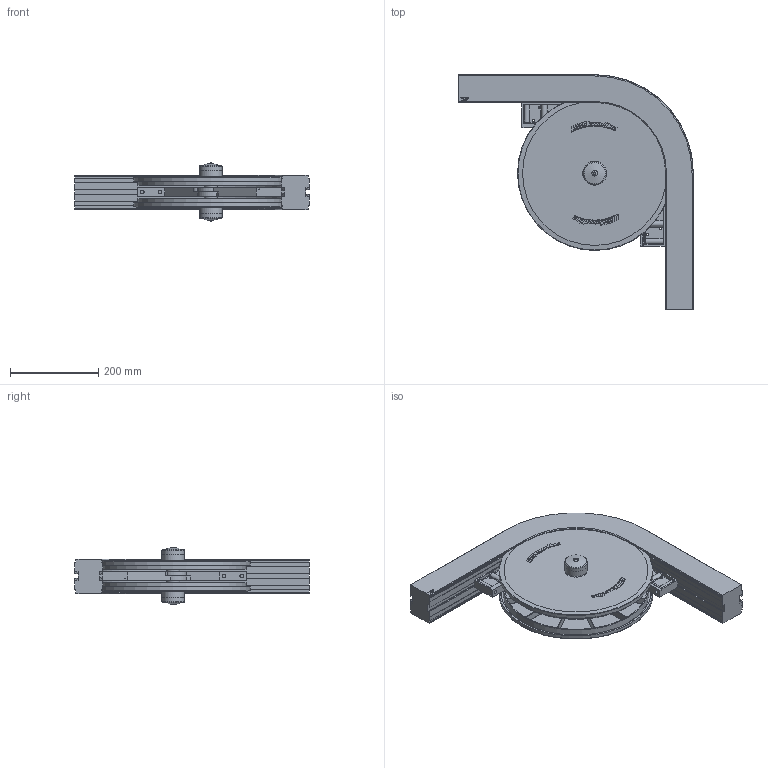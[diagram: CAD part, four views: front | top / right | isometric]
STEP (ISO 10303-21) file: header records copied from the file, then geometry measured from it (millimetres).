
FILE_DESCRIPTION((''),'2;1');
FILE_NAME('C:\Vault Klient\Projekt\Koncept konstruktion\Serie 620 Hjulkurva\620-5040.stp','2010-11-12T12:36:32',('Mathias'),(''),'Autodesk Inventor 2011','Autodesk Inventor 2011','');
FILE_SCHEMA(('AUTOMOTIVE_DESIGN { 1 0 10303 214 1 1 1 1 }'));
Length unit declared in the file: millimetre
Products named in the file (5): 620-5040; 620-1000_05; 830-5056; 830-5057; FCWA-0476-025
Assembly tree (7 placements, depth 2):
  620-5040
    620-1000_05
    830-5056  x2
    830-5057  x2
    FCWA-0476-025  x2
Bounding box: 532 x 532 x 131.93 mm (x, y, z)
Volume: 5701433.9 mm3; surface area: 1048066.9 mm2
Topology: 7 solids, 7 shells, 1539 faces, 3850 edges, 2386 vertices
Faces by surface type: plane 831, bspline 278, cylinder 252, torus 82, cone 72, sphere 24
Full cylindrical faces by diameter (mm): 5 x6, 6 x16, 8.2 x4, 8.5 x4, 17 x2, 29.5 x2, 30 x2, 40 x4, 47.6 x2, 50.3 x2, 51.3 x2, 350 x2
Entity records: 29906 total; most frequent: CARTESIAN_POINT 9974, ORIENTED_EDGE 4136, DIRECTION 3836, EDGE_CURVE 2068, VERTEX_POINT 1326, VECTOR 1280, LINE 1280, AXIS2_PLACEMENT_3D 1278
